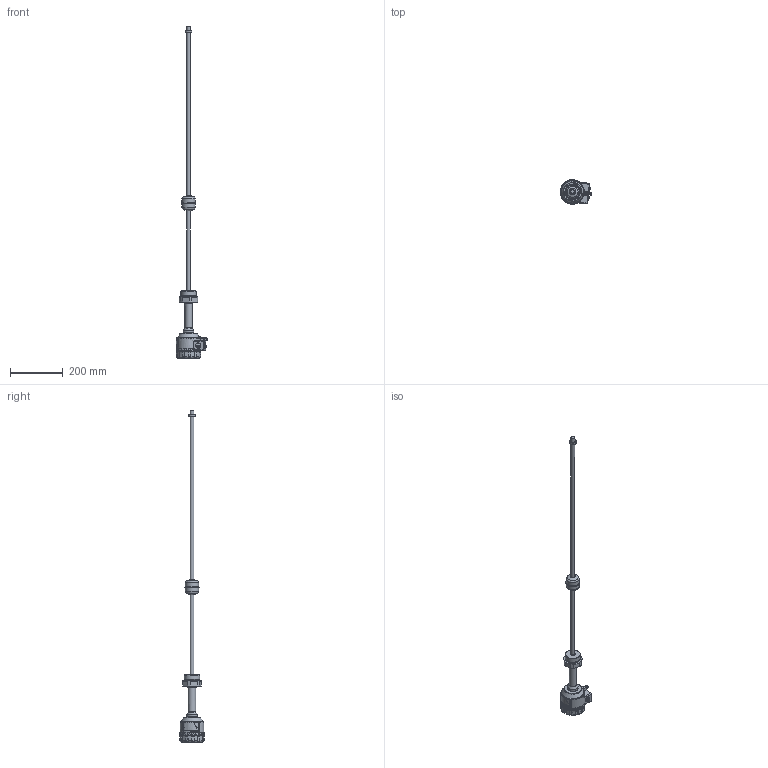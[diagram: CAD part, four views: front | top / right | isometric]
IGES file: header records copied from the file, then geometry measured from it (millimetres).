
Global section: file name: M_Mű_Aszer_2col,; native system: Autodesk Inventor 2015; preprocessor: unknown; author: aantal; date: 20150306.111534; units: millimetre
Bounding box: 118.89 x 93 x 1256.6 mm (x, y, z)
Volume: 1152884 mm3; surface area: 165633.7 mm2
Topology: 15 solids, 15 shells, 1317 faces, 3291 edges, 2046 vertices
Faces by surface type: bspline 1317
